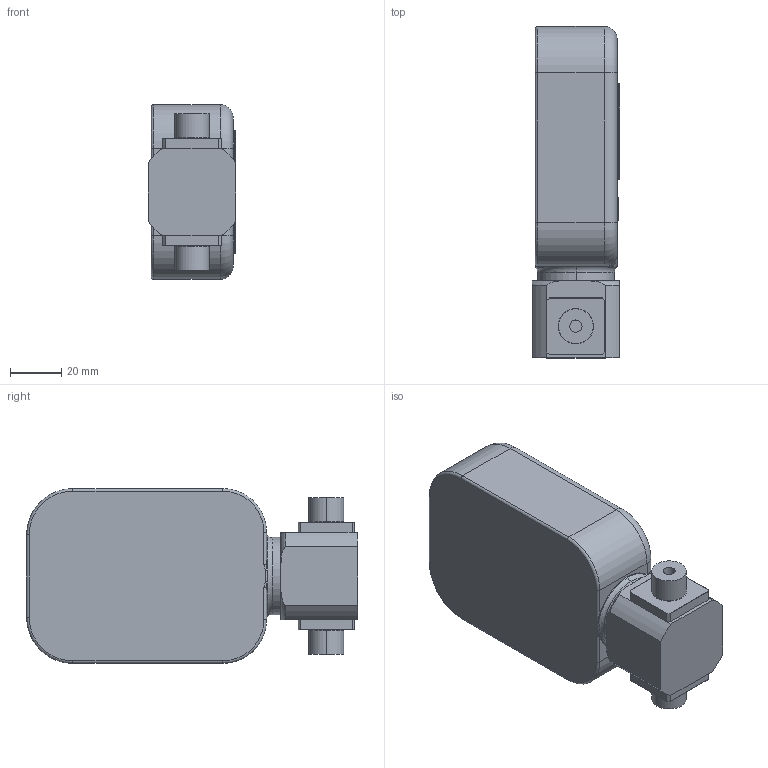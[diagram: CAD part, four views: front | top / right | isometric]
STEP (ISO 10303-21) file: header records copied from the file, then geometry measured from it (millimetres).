
FILE_DESCRIPTION (( 'STEP AP203' ), '1' );
FILE_NAME ('重庆捷定力 MF5706 流量计3D图 STEP.STEP', '2023-07-17T08:45:44', ( '微软用户' ), ( '微软中国' ), 'SwSTEP 2.0', 'SolidWorks 2016', '' );
FILE_SCHEMA (( 'CONFIG_CONTROL_DESIGN' ));
Length unit declared in the file: millimetre
Products named in the file (1): 重庆捷定力 MF5706 流量计3D图 STEP
Bounding box: 34 x 129.1 x 68 mm (x, y, z)
Volume: 237020.4 mm3; surface area: 27937.5 mm2
Topology: 1 solids, 1 shells, 175 faces, 412 edges, 248 vertices
Faces by surface type: plane 87, cylinder 47, torus 16, cone 14, bspline 11
Entity records: 6882 total; most frequent: CARTESIAN_POINT 2869, DIRECTION 818, ORIENTED_EDGE 812, EDGE_CURVE 406, AXIS2_PLACEMENT_3D 284, LINE 250, VECTOR 250, VERTEX_POINT 248
